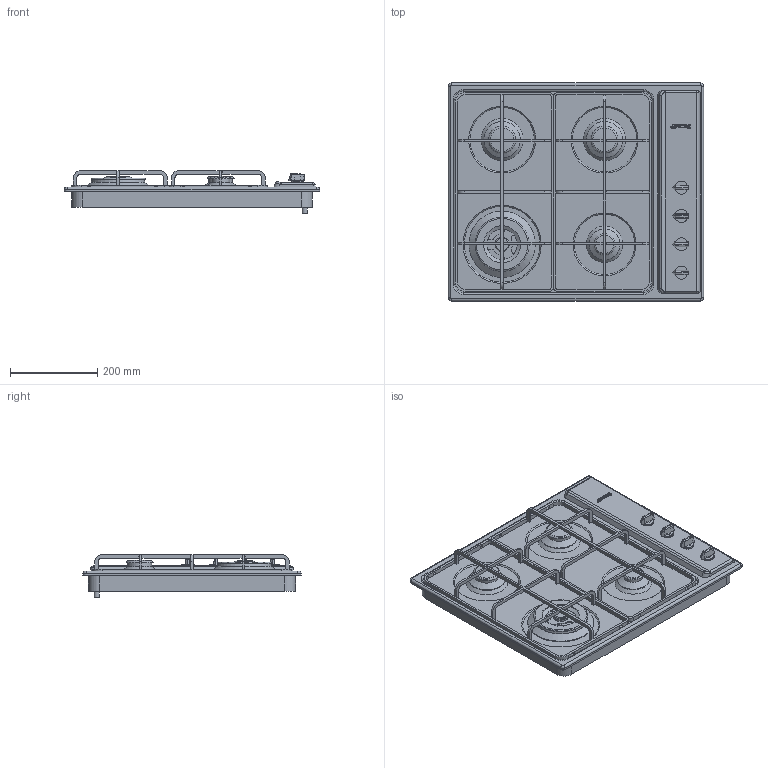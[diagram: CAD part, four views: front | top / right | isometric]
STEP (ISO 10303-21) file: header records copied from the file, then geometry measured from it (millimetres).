
FILE_DESCRIPTION(/* description */ (''),/* implementation_level */ '2;1');
FILE_NAME(/* name */ 'piano sr64s.stp',/* time_stamp */ '2018-10-05T10:56:09+02:00',/* author */ (''),/* organization */ (''),/* preprocessor_version */ 'ST-DEVELOPER v16',/* originating_system */ 'SIEMENS PLM Software NX 11.0',/* authorisation */ '');
FILE_SCHEMA (('AUTOMOTIVE_DESIGN { 1 0 10303 214 3 1 1 1 }'));
Length unit declared in the file: millimetre
Products named in the file (1): gobbC0B8C4BD45os
Bounding box: 585 x 500 x 97.27 mm (x, y, z)
Volume: 11951631.5 mm3; surface area: 1590676.7 mm2
Topology: 28 solids, 28 shells, 647 faces, 1679 edges, 1092 vertices
Faces by surface type: plane 388, cylinder 166, bspline 42, cone 17, torus 13, extrusion 13, sphere 8
Full cylindrical faces by diameter (mm): 3.988 x6, 8 x1, 12 x2, 16 x4, 21 x4, 23 x1, 23.5 x1, 27 x4, 28 x1, 30 x4, 32 x1, 42 x1, 43 x1, 55 x2, 56 x2, 70.5 x1, 79.5 x1, 83 x2, 85 x1, 89.5 x1, 90 x1, 98.5 x1, 106.5 x1, 111 x1, 113.5 x1, 122 x1, 124 x1, 152 x1
Entity records: 20378 total; most frequent: CARTESIAN_POINT 4762, DIRECTION 3109, ORIENTED_EDGE 3104, EDGE_CURVE 1552, AXIS2_PLACEMENT_3D 1053, VERTEX_POINT 1042, VECTOR 1003, LINE 990
